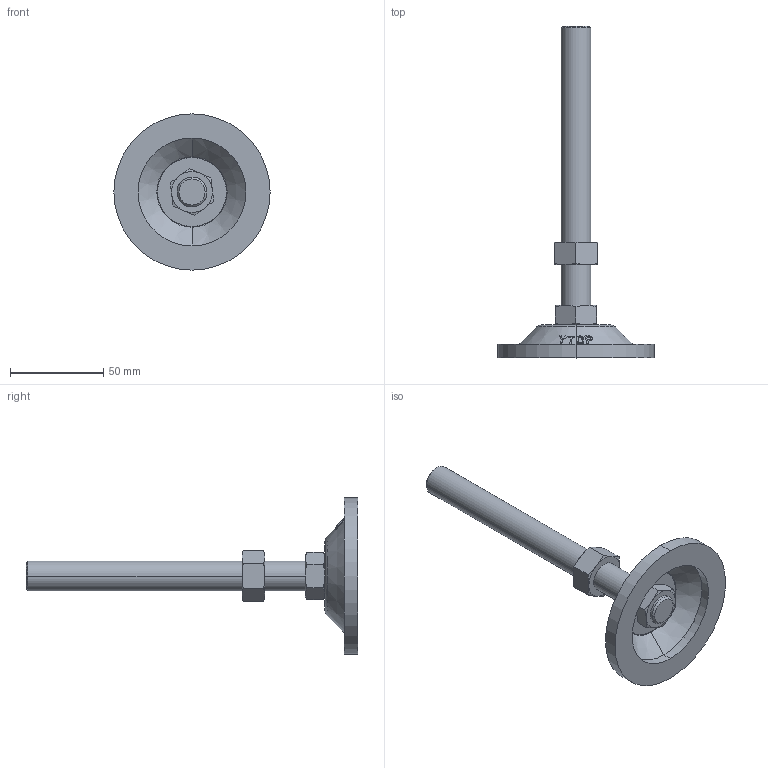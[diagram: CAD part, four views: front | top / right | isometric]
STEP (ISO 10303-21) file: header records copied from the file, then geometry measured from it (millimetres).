
FILE_DESCRIPTION (( 'STEP AP203' ), '1' );
FILE_NAME ('P-84-16150-BR.STEP', '2020-09-10T08:58:44', ( '' ), ( '' ), 'SwSTEP 2.0', 'SolidWorks 2016', '' );
FILE_SCHEMA (( 'CONFIG_CONTROL_DESIGN' ));
Length unit declared in the file: millimetre
Products named in the file (5): P-84-1菁釱-3P; 脚垫锁紧六角薄螺母M16; 脚垫调节六角螺母M16; 傲郈蹟裝M16炵蹈_M16X150; P-84-16150-BR
Assembly tree (4 placements, depth 2):
  P-84-16150-BR
    P-84-1菁釱-3P
    傲郈蹟裝M16炵蹈_M16X150
    脚垫锁紧六角薄螺母M16
    脚垫调节六角螺母M16
Bounding box: 84 x 178.4 x 84 mm (x, y, z)
Volume: 73223 mm3; surface area: 37378.3 mm2
Topology: 5 solids, 5 shells, 158 faces, 360 edges, 224 vertices
Faces by surface type: cone 56, bspline 38, plane 34, cylinder 20, torus 10
Entity records: 8917 total; most frequent: CARTESIAN_POINT 5213, ORIENTED_EDGE 720, DIRECTION 546, EDGE_CURVE 360, AXIS2_PLACEMENT_3D 241, VERTEX_POINT 224, B_SPLINE_CURVE_WITH_KNOTS 182, EDGE_LOOP 178
